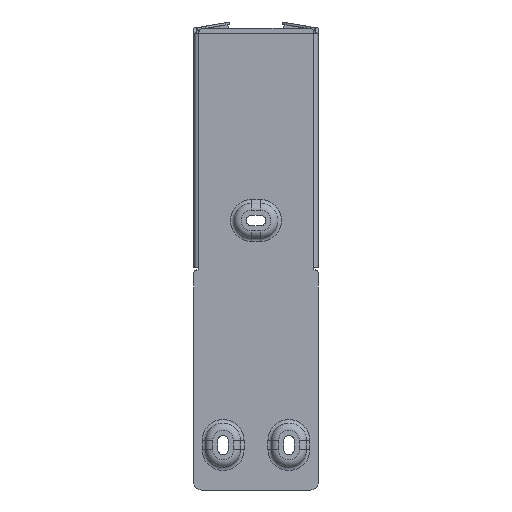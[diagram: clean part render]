
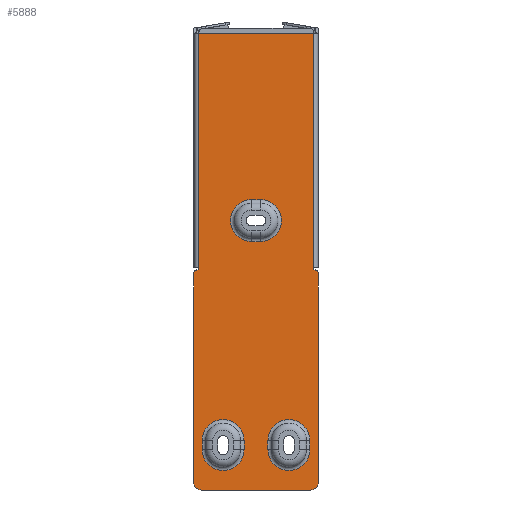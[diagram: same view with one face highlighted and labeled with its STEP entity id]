
A CAD part, front view. The second image highlights one B-rep face of the part: STEP entity #5888.
In plain terms, the highlighted planar face has unit normal (0, -1, 0).
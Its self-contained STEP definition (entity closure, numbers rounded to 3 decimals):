
#296=DIRECTION('',(0.,0.,-1.));
#297=VECTOR('',#296,156.5);
#298=CARTESIAN_POINT('',(38.5,-1.5,-5.));
#299=LINE('',#298,#297);
#785=DIRECTION('',(0.,0.,-1.));
#786=VECTOR('',#785,1.5);
#787=CARTESIAN_POINT('',(38.5,-1.5,-161.5));
#788=LINE('',#787,#786);
#792=DIRECTION('',(-1.,0.,0.));
#793=VECTOR('',#792,1.);
#794=CARTESIAN_POINT('',(39.5,-1.5,-163.));
#795=LINE('',#794,#793);
#799=CARTESIAN_POINT('',(39.5,-1.5,-165.));
#800=DIRECTION('',(0.,-1.,0.));
#801=DIRECTION('',(1.,0.,0.));
#802=AXIS2_PLACEMENT_3D('',#799,#800,#801);
#807=DIRECTION('',(0.,0.,-1.));
#808=VECTOR('',#807,140.);
#809=CARTESIAN_POINT('',(41.5,-1.5,-165.));
#810=LINE('',#809,#808);
#814=CARTESIAN_POINT('',(36.5,-1.5,-305.));
#815=DIRECTION('',(0.,-1.,0.));
#816=DIRECTION('',(0.,0.,-1.));
#817=AXIS2_PLACEMENT_3D('',#814,#815,#816);
#822=DIRECTION('',(-1.,0.,0.));
#823=VECTOR('',#822,73.);
#824=CARTESIAN_POINT('',(36.5,-1.5,-310.));
#825=LINE('',#824,#823);
#829=CARTESIAN_POINT('',(-36.5,-1.5,-305.));
#830=DIRECTION('',(0.,-1.,0.));
#831=DIRECTION('',(-1.,0.,0.));
#832=AXIS2_PLACEMENT_3D('',#829,#830,#831);
#837=DIRECTION('',(0.,0.,1.));
#838=VECTOR('',#837,140.);
#839=CARTESIAN_POINT('',(-41.5,-1.5,-305.));
#840=LINE('',#839,#838);
#844=CARTESIAN_POINT('',(-39.5,-1.5,-165.));
#845=DIRECTION('',(0.,-1.,0.));
#846=DIRECTION('',(0.,0.,1.));
#847=AXIS2_PLACEMENT_3D('',#844,#845,#846);
#852=DIRECTION('',(1.,0.,0.));
#853=VECTOR('',#852,1.);
#854=CARTESIAN_POINT('',(-39.5,-1.5,-163.));
#855=LINE('',#854,#853);
#859=DIRECTION('',(0.,0.,-1.));
#860=VECTOR('',#859,1.5);
#861=CARTESIAN_POINT('',(-38.5,-1.5,-161.5));
#862=LINE('',#861,#860);
#866=DIRECTION('',(1.,0.,0.));
#867=VECTOR('',#866,77.);
#868=CARTESIAN_POINT('',(-38.5,-1.5,-5.));
#869=LINE('',#868,#867);
#873=DIRECTION('',(0.,0.,1.));
#874=VECTOR('',#873,6.);
#875=CARTESIAN_POINT('',(36.,-1.5,-283.));
#876=LINE('',#875,#874);
#880=CARTESIAN_POINT('',(22.,-1.5,-277.));
#881=DIRECTION('',(0.,-1.,0.));
#882=DIRECTION('',(1.,0.,0.));
#883=AXIS2_PLACEMENT_3D('',#880,#881,#882);
#888=DIRECTION('',(0.,0.,-1.));
#889=VECTOR('',#888,6.);
#890=CARTESIAN_POINT('',(8.,-1.5,-277.));
#891=LINE('',#890,#889);
#895=CARTESIAN_POINT('',(22.,-1.5,-283.));
#896=DIRECTION('',(0.,-1.,0.));
#897=DIRECTION('',(-1.,0.,0.));
#898=AXIS2_PLACEMENT_3D('',#895,#896,#897);
#903=DIRECTION('',(0.,0.,1.));
#904=VECTOR('',#903,6.);
#905=CARTESIAN_POINT('',(-8.,-1.5,-283.));
#906=LINE('',#905,#904);
#910=CARTESIAN_POINT('',(-22.,-1.5,-277.));
#911=DIRECTION('',(0.,-1.,0.));
#912=DIRECTION('',(1.,0.,0.));
#913=AXIS2_PLACEMENT_3D('',#910,#911,#912);
#918=DIRECTION('',(0.,0.,-1.));
#919=VECTOR('',#918,6.);
#920=CARTESIAN_POINT('',(-36.,-1.5,-277.));
#921=LINE('',#920,#919);
#925=CARTESIAN_POINT('',(-22.,-1.5,-283.));
#926=DIRECTION('',(0.,-1.,0.));
#927=DIRECTION('',(-1.,0.,0.));
#928=AXIS2_PLACEMENT_3D('',#925,#926,#927);
#933=DIRECTION('',(1.,0.,0.));
#934=VECTOR('',#933,6.);
#935=CARTESIAN_POINT('',(-3.,-1.5,-144.));
#936=LINE('',#935,#934);
#940=CARTESIAN_POINT('',(3.,-1.5,-130.));
#941=DIRECTION('',(0.,-1.,0.));
#942=DIRECTION('',(0.,0.,-1.));
#943=AXIS2_PLACEMENT_3D('',#940,#941,#942);
#948=DIRECTION('',(-1.,0.,0.));
#949=VECTOR('',#948,6.);
#950=CARTESIAN_POINT('',(3.,-1.5,-116.));
#951=LINE('',#950,#949);
#955=CARTESIAN_POINT('',(-3.,-1.5,-130.));
#956=DIRECTION('',(0.,-1.,0.));
#957=DIRECTION('',(0.,0.,1.));
#958=AXIS2_PLACEMENT_3D('',#955,#956,#957);
#2386=DIRECTION('',(0.,0.,-1.));
#2387=VECTOR('',#2386,156.5);
#2388=CARTESIAN_POINT('',(-38.5,-1.5,-5.));
#2389=LINE('',#2388,#2387);
#4588=CARTESIAN_POINT('',(38.5,-1.5,-163.));
#4590=VERTEX_POINT('',#4588);
#4596=CARTESIAN_POINT('',(36.5,-1.5,-310.));
#4597=VERTEX_POINT('',#4596);
#4598=CARTESIAN_POINT('',(41.5,-1.5,-305.));
#4599=VERTEX_POINT('',#4598);
#4604=CARTESIAN_POINT('',(-41.5,-1.5,-305.));
#4605=VERTEX_POINT('',#4604);
#4606=CARTESIAN_POINT('',(-36.5,-1.5,-310.));
#4607=VERTEX_POINT('',#4606);
#4672=CARTESIAN_POINT('',(36.,-1.5,-283.));
#4673=CARTESIAN_POINT('',(36.,-1.5,-277.));
#4674=VERTEX_POINT('',#4672);
#4675=VERTEX_POINT('',#4673);
#4676=CARTESIAN_POINT('',(8.,-1.5,-277.));
#4677=VERTEX_POINT('',#4676);
#4678=CARTESIAN_POINT('',(8.,-1.5,-283.));
#4679=VERTEX_POINT('',#4678);
#4752=CARTESIAN_POINT('',(-8.,-1.5,-283.));
#4753=CARTESIAN_POINT('',(-8.,-1.5,-277.));
#4754=VERTEX_POINT('',#4752);
#4755=VERTEX_POINT('',#4753);
#4756=CARTESIAN_POINT('',(-36.,-1.5,-277.));
#4757=VERTEX_POINT('',#4756);
#4758=CARTESIAN_POINT('',(-36.,-1.5,-283.));
#4759=VERTEX_POINT('',#4758);
#4816=CARTESIAN_POINT('',(-3.,-1.5,-144.));
#4817=CARTESIAN_POINT('',(3.,-1.5,-144.));
#4818=VERTEX_POINT('',#4816);
#4819=VERTEX_POINT('',#4817);
#4820=CARTESIAN_POINT('',(3.,-1.5,-116.));
#4821=VERTEX_POINT('',#4820);
#4822=CARTESIAN_POINT('',(-3.,-1.5,-116.));
#4823=VERTEX_POINT('',#4822);
#4825=CARTESIAN_POINT('',(-38.5,-1.5,-163.));
#4827=VERTEX_POINT('',#4825);
#4872=CARTESIAN_POINT('',(-39.5,-1.5,-163.));
#4873=VERTEX_POINT('',#4872);
#4874=CARTESIAN_POINT('',(-41.5,-1.5,-165.));
#4875=VERTEX_POINT('',#4874);
#4876=CARTESIAN_POINT('',(41.5,-1.5,-165.));
#4877=CARTESIAN_POINT('',(39.5,-1.5,-163.));
#4878=VERTEX_POINT('',#4876);
#4879=VERTEX_POINT('',#4877);
#5113=CARTESIAN_POINT('',(-38.5,-1.5,-161.5));
#5114=VERTEX_POINT('',#5113);
#5122=CARTESIAN_POINT('',(-38.5,-1.5,-5.));
#5124=VERTEX_POINT('',#5122);
#5133=CARTESIAN_POINT('',(38.5,-1.5,-161.5));
#5134=VERTEX_POINT('',#5133);
#5136=CARTESIAN_POINT('',(38.5,-1.5,-5.));
#5138=VERTEX_POINT('',#5136);
#5826=CARTESIAN_POINT('',(0.,-1.5,0.));
#5827=DIRECTION('',(0.,1.,0.));
#5828=DIRECTION('',(1.,0.,0.));
#5829=AXIS2_PLACEMENT_3D('',#5826,#5827,#5828);
#5830=PLANE('',#5829);
#5831=ORIENTED_EDGE('',*,*,#5730,.T.);
#5833=ORIENTED_EDGE('',*,*,#5832,.F.);
#5835=ORIENTED_EDGE('',*,*,#5834,.F.);
#5837=ORIENTED_EDGE('',*,*,#5836,.T.);
#5839=ORIENTED_EDGE('',*,*,#5838,.F.);
#5841=ORIENTED_EDGE('',*,*,#5840,.T.);
#5843=ORIENTED_EDGE('',*,*,#5842,.F.);
#5845=ORIENTED_EDGE('',*,*,#5844,.T.);
#5847=ORIENTED_EDGE('',*,*,#5846,.F.);
#5849=ORIENTED_EDGE('',*,*,#5848,.T.);
#5851=ORIENTED_EDGE('',*,*,#5850,.F.);
#5853=ORIENTED_EDGE('',*,*,#5852,.F.);
#5854=ORIENTED_EDGE('',*,*,#5806,.T.);
#5855=ORIENTED_EDGE('',*,*,#5496,.T.);
#5856=EDGE_LOOP('',(#5831,#5833,#5835,#5837,#5839,#5841,#5843,#5845,#5847,#5849,
#5851,#5853,#5854,#5855));
#5857=FACE_OUTER_BOUND('',#5856,.F.);
#5859=ORIENTED_EDGE('',*,*,#5858,.T.);
#5861=ORIENTED_EDGE('',*,*,#5860,.T.);
#5863=ORIENTED_EDGE('',*,*,#5862,.T.);
#5865=ORIENTED_EDGE('',*,*,#5864,.T.);
#5866=EDGE_LOOP('',(#5859,#5861,#5863,#5865));
#5867=FACE_BOUND('',#5866,.F.);
#5869=ORIENTED_EDGE('',*,*,#5868,.T.);
#5871=ORIENTED_EDGE('',*,*,#5870,.T.);
#5873=ORIENTED_EDGE('',*,*,#5872,.T.);
#5875=ORIENTED_EDGE('',*,*,#5874,.T.);
#5876=EDGE_LOOP('',(#5869,#5871,#5873,#5875));
#5877=FACE_BOUND('',#5876,.F.);
#5879=ORIENTED_EDGE('',*,*,#5878,.T.);
#5881=ORIENTED_EDGE('',*,*,#5880,.T.);
#5883=ORIENTED_EDGE('',*,*,#5882,.T.);
#5885=ORIENTED_EDGE('',*,*,#5884,.T.);
#5886=EDGE_LOOP('',(#5879,#5881,#5883,#5885));
#5887=FACE_BOUND('',#5886,.F.);
#5888=ADVANCED_FACE('',(#5857,#5867,#5877,#5887),#5830,.F.);
#803=CIRCLE('',#802,2.);
#818=CIRCLE('',#817,5.);
#833=CIRCLE('',#832,5.);
#848=CIRCLE('',#847,2.);
#884=CIRCLE('',#883,14.);
#899=CIRCLE('',#898,14.);
#914=CIRCLE('',#913,14.);
#929=CIRCLE('',#928,14.);
#944=CIRCLE('',#943,14.);
#959=CIRCLE('',#958,14.);
#5496=EDGE_CURVE('',#5138,#5134,#299,.T.);
#5730=EDGE_CURVE('',#5134,#4590,#788,.T.);
#5806=EDGE_CURVE('',#5124,#5138,#869,.T.);
#5832=EDGE_CURVE('',#4879,#4590,#795,.T.);
#5834=EDGE_CURVE('',#4878,#4879,#803,.T.);
#5836=EDGE_CURVE('',#4878,#4599,#810,.T.);
#5838=EDGE_CURVE('',#4597,#4599,#818,.T.);
#5840=EDGE_CURVE('',#4597,#4607,#825,.T.);
#5842=EDGE_CURVE('',#4605,#4607,#833,.T.);
#5844=EDGE_CURVE('',#4605,#4875,#840,.T.);
#5846=EDGE_CURVE('',#4873,#4875,#848,.T.);
#5848=EDGE_CURVE('',#4873,#4827,#855,.T.);
#5850=EDGE_CURVE('',#5114,#4827,#862,.T.);
#5852=EDGE_CURVE('',#5124,#5114,#2389,.T.);
#5858=EDGE_CURVE('',#4674,#4675,#876,.T.);
#5860=EDGE_CURVE('',#4675,#4677,#884,.T.);
#5862=EDGE_CURVE('',#4677,#4679,#891,.T.);
#5864=EDGE_CURVE('',#4679,#4674,#899,.T.);
#5868=EDGE_CURVE('',#4754,#4755,#906,.T.);
#5870=EDGE_CURVE('',#4755,#4757,#914,.T.);
#5872=EDGE_CURVE('',#4757,#4759,#921,.T.);
#5874=EDGE_CURVE('',#4759,#4754,#929,.T.);
#5878=EDGE_CURVE('',#4818,#4819,#936,.T.);
#5880=EDGE_CURVE('',#4819,#4821,#944,.T.);
#5882=EDGE_CURVE('',#4821,#4823,#951,.T.);
#5884=EDGE_CURVE('',#4823,#4818,#959,.T.);
